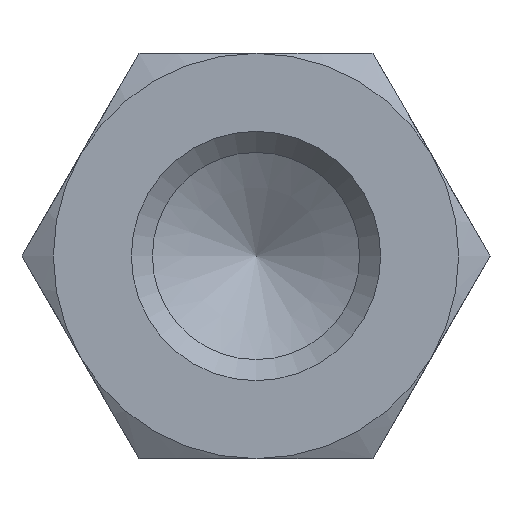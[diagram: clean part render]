
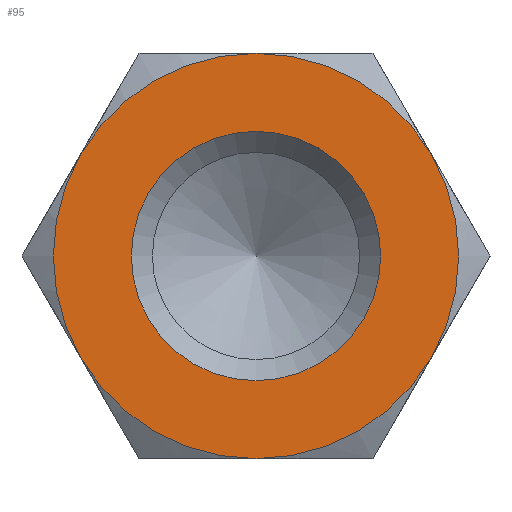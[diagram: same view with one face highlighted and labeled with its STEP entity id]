
A CAD part, left-side view. The second image highlights one B-rep face of the part: STEP entity #95.
In plain terms, the highlighted planar face has unit normal (-1, 0, 0).
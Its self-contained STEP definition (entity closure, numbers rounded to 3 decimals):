
#95 = ADVANCED_FACE( '', ( #147, #148 ), #149, .F. );
#147 = FACE_OUTER_BOUND( '', #206, .T. );
#148 = FACE_BOUND( '', #207, .T. );
#149 = PLANE( '', #208 );
#206 = EDGE_LOOP( '', ( #356, #357, #358, #359, #360, #361 ) );
#207 = EDGE_LOOP( '', ( #362 ) );
#208 = AXIS2_PLACEMENT_3D( '', #363, #364, #365 );
#356 = ORIENTED_EDGE( '', *, *, #440, .F. );
#357 = ORIENTED_EDGE( '', *, *, #425, .F. );
#358 = ORIENTED_EDGE( '', *, *, #441, .F. );
#359 = ORIENTED_EDGE( '', *, *, #437, .F. );
#360 = ORIENTED_EDGE( '', *, *, #442, .F. );
#361 = ORIENTED_EDGE( '', *, *, #443, .F. );
#362 = ORIENTED_EDGE( '', *, *, #439, .T. );
#363 = CARTESIAN_POINT( '', ( -35., 0., 0. ) );
#364 = DIRECTION( '', ( 1., 0., 0. ) );
#365 = DIRECTION( '', ( 0., 0., -1. ) );
#425 = EDGE_CURVE( '', #495, #493, #497, .T. );
#437 = EDGE_CURVE( '', #447, #506, #513, .T. );
#439 = EDGE_CURVE( '', #516, #516, #517, .T. );
#440 = EDGE_CURVE( '', #493, #486, #518, .T. );
#441 = EDGE_CURVE( '', #506, #495, #519, .T. );
#442 = EDGE_CURVE( '', #481, #447, #520, .T. );
#443 = EDGE_CURVE( '', #486, #481, #521, .T. );
#447 = VERTEX_POINT( '', #525 );
#481 = VERTEX_POINT( '', #607 );
#486 = VERTEX_POINT( '', #623 );
#493 = VERTEX_POINT( '', #650 );
#495 = VERTEX_POINT( '', #657 );
#497 = CIRCLE( '', #664, 6.5 );
#506 = VERTEX_POINT( '', #690 );
#513 = CIRCLE( '', #733, 6.5 );
#516 = VERTEX_POINT( '', #736 );
#517 = CIRCLE( '', #737, 4. );
#518 = CIRCLE( '', #738, 6.5 );
#519 = CIRCLE( '', #739, 6.5 );
#520 = CIRCLE( '', #740, 6.5 );
#521 = CIRCLE( '', #741, 6.5 );
#525 = CARTESIAN_POINT( '', ( -35., -5.629, 3.25 ) );
#607 = CARTESIAN_POINT( '', ( -35., 0., 6.5 ) );
#623 = CARTESIAN_POINT( '', ( -35., 5.629, 3.25 ) );
#650 = CARTESIAN_POINT( '', ( -35., 5.629, -3.25 ) );
#657 = CARTESIAN_POINT( '', ( -35., 0., -6.5 ) );
#664 = AXIS2_PLACEMENT_3D( '', #776, #777, #778 );
#690 = CARTESIAN_POINT( '', ( -35., -5.629, -3.25 ) );
#733 = AXIS2_PLACEMENT_3D( '', #781, #782, #783 );
#736 = CARTESIAN_POINT( '', ( -35., 4., 0. ) );
#737 = AXIS2_PLACEMENT_3D( '', #787, #788, #789 );
#738 = AXIS2_PLACEMENT_3D( '', #790, #791, #792 );
#739 = AXIS2_PLACEMENT_3D( '', #793, #794, #795 );
#740 = AXIS2_PLACEMENT_3D( '', #796, #797, #798 );
#741 = AXIS2_PLACEMENT_3D( '', #799, #800, #801 );
#776 = CARTESIAN_POINT( '', ( -35., 0., 0. ) );
#777 = DIRECTION( '', ( 1., 0., 0. ) );
#778 = DIRECTION( '', ( 0., 0., -1. ) );
#781 = CARTESIAN_POINT( '', ( -35., 0., 0. ) );
#782 = DIRECTION( '', ( 1., 0., 0. ) );
#783 = DIRECTION( '', ( 0., 0., -1. ) );
#787 = CARTESIAN_POINT( '', ( -35., 0., 0. ) );
#788 = DIRECTION( '', ( 1., 0., 0. ) );
#789 = DIRECTION( '', ( 0., 1., 0. ) );
#790 = CARTESIAN_POINT( '', ( -35., 0., 0. ) );
#791 = DIRECTION( '', ( 1., 0., 0. ) );
#792 = DIRECTION( '', ( 0., 0., -1. ) );
#793 = CARTESIAN_POINT( '', ( -35., 0., 0. ) );
#794 = DIRECTION( '', ( 1., 0., 0. ) );
#795 = DIRECTION( '', ( 0., 0., -1. ) );
#796 = CARTESIAN_POINT( '', ( -35., 0., 0. ) );
#797 = DIRECTION( '', ( 1., 0., 0. ) );
#798 = DIRECTION( '', ( 0., 0., -1. ) );
#799 = CARTESIAN_POINT( '', ( -35., 0., 0. ) );
#800 = DIRECTION( '', ( 1., 0., 0. ) );
#801 = DIRECTION( '', ( 0., 0., -1. ) );
